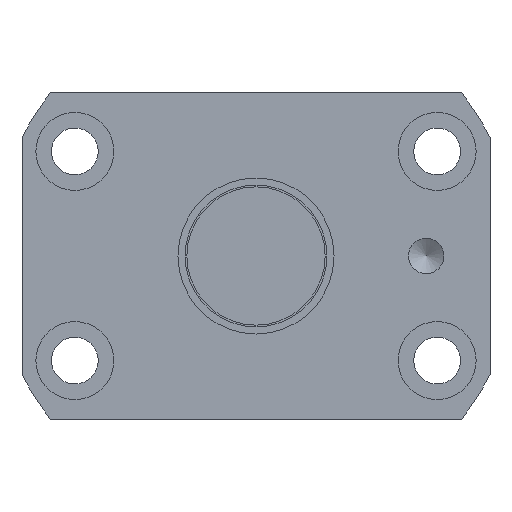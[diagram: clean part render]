
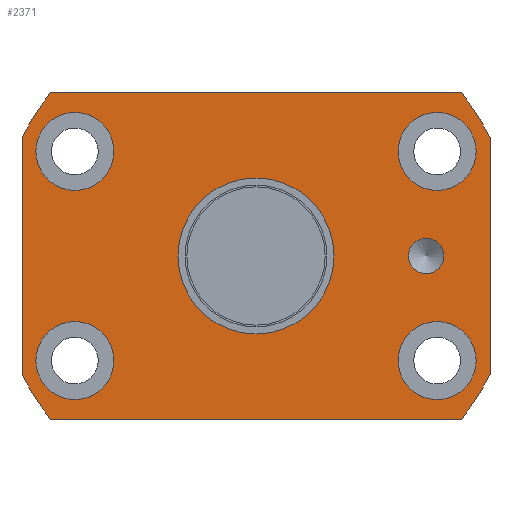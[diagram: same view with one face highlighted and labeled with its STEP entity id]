
A CAD part, left-side view. The second image highlights one B-rep face of the part: STEP entity #2371.
In plain terms, the highlighted planar face has unit normal (-1, 0, 0).
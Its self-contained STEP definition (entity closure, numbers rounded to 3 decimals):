
#3 = AXIS2_PLACEMENT_3D ( 'NONE', #3073, #1514, #3324 ) ;
#31 = CARTESIAN_POINT ( 'NONE',  ( 0., -20.048, 14.75 ) ) ;
#52 = AXIS2_PLACEMENT_3D ( 'NONE', #891, #1347, #2118 ) ;
#75 = CARTESIAN_POINT ( 'NONE',  ( 0., 28.983, -23. ) ) ;
#92 = FACE_BOUND ( 'NONE', #2767, .T. ) ;
#104 = CARTESIAN_POINT ( 'NONE',  ( 0., -33., -16.733 ) ) ;
#128 = ORIENTED_EDGE ( 'NONE', *, *, #2062, .F. ) ;
#167 = CARTESIAN_POINT ( 'NONE',  ( 0., -28.983, 23. ) ) ;
#173 = DIRECTION ( 'NONE',  ( 0., 1., 0. ) ) ;
#179 = EDGE_LOOP ( 'NONE', ( #1289 ) ) ;
#186 = CARTESIAN_POINT ( 'NONE',  ( 0., 31.048, -14.75 ) ) ;
#278 = VERTEX_POINT ( 'NONE', #293 ) ;
#282 = FACE_BOUND ( 'NONE', #3169, .T. ) ;
#293 = CARTESIAN_POINT ( 'NONE',  ( 0., 31.048, 14.75 ) ) ;
#316 = FACE_BOUND ( 'NONE', #940, .T. ) ;
#372 = EDGE_CURVE ( 'NONE', #725, #2482, #2555, .T. ) ;
#401 = DIRECTION ( 'NONE',  ( 0., 1., 0. ) ) ;
#426 = CARTESIAN_POINT ( 'NONE',  ( 0., 11., 0. ) ) ;
#430 = CARTESIAN_POINT ( 'NONE',  ( 0., 0., 0. ) ) ;
#512 = EDGE_CURVE ( 'NONE', #2338, #2338, #2627, .T. ) ;
#531 = CARTESIAN_POINT ( 'NONE',  ( 0., 33., 23. ) ) ;
#535 = DIRECTION ( 'NONE',  ( 0., 1., 0. ) ) ;
#554 = EDGE_LOOP ( 'NONE', ( #2969 ) ) ;
#582 = PLANE ( 'NONE',  #1252 ) ;
#605 = CIRCLE ( 'NONE', #1522, 11. ) ;
#609 = AXIS2_PLACEMENT_3D ( 'NONE', #2513, #1999, #2276 ) ;
#616 = FACE_BOUND ( 'NONE', #179, .T. ) ;
#650 = CARTESIAN_POINT ( 'NONE',  ( 0., -25.548, 14.75 ) ) ;
#661 = ORIENTED_EDGE ( 'NONE', *, *, #1205, .F. ) ;
#673 = ORIENTED_EDGE ( 'NONE', *, *, #959, .F. ) ;
#725 = VERTEX_POINT ( 'NONE', #1808 ) ;
#768 = VECTOR ( 'NONE', #1577, 1000. ) ;
#781 = VERTEX_POINT ( 'NONE', #2094 ) ;
#793 = VERTEX_POINT ( 'NONE', #2000 ) ;
#891 = CARTESIAN_POINT ( 'NONE',  ( 0., 0., 0. ) ) ;
#937 = DIRECTION ( 'NONE',  ( 1., 0., 0. ) ) ;
#940 = EDGE_LOOP ( 'NONE', ( #2032 ) ) ;
#955 = VERTEX_POINT ( 'NONE', #1891 ) ;
#959 = EDGE_CURVE ( 'NONE', #3069, #1021, #1778, .T. ) ;
#969 = ORIENTED_EDGE ( 'NONE', *, *, #2085, .F. ) ;
#979 = VECTOR ( 'NONE', #2230, 1000. ) ;
#1006 = DIRECTION ( 'NONE',  ( 1., 0., 0. ) ) ;
#1021 = VERTEX_POINT ( 'NONE', #2712 ) ;
#1026 = AXIS2_PLACEMENT_3D ( 'NONE', #1977, #2496, #2727 ) ;
#1039 = CARTESIAN_POINT ( 'NONE',  ( 0., 25.548, -14.75 ) ) ;
#1040 = ORIENTED_EDGE ( 'NONE', *, *, #2313, .F. ) ;
#1060 = EDGE_CURVE ( 'NONE', #781, #781, #1188, .T. ) ;
#1132 = AXIS2_PLACEMENT_3D ( 'NONE', #430, #937, #173 ) ;
#1150 = CARTESIAN_POINT ( 'NONE',  ( 0., -33., 23. ) ) ;
#1161 = EDGE_CURVE ( 'NONE', #278, #278, #2481, .T. ) ;
#1174 = AXIS2_PLACEMENT_3D ( 'NONE', #650, #2682, #2431 ) ;
#1188 = CIRCLE ( 'NONE', #1026, 2.5 ) ;
#1205 = EDGE_CURVE ( 'NONE', #2482, #1892, #2970, .T. ) ;
#1208 = EDGE_LOOP ( 'NONE', ( #3216 ) ) ;
#1252 = AXIS2_PLACEMENT_3D ( 'NONE', #2630, #2359, #1386 ) ;
#1282 = ORIENTED_EDGE ( 'NONE', *, *, #2586, .F. ) ;
#1289 = ORIENTED_EDGE ( 'NONE', *, *, #1910, .T. ) ;
#1302 = VECTOR ( 'NONE', #1832, 1000. ) ;
#1336 = FACE_BOUND ( 'NONE', #1208, .T. ) ;
#1347 = DIRECTION ( 'NONE',  ( 1., 0., 0. ) ) ;
#1386 = DIRECTION ( 'NONE',  ( 0., 0., 1. ) ) ;
#1407 = AXIS2_PLACEMENT_3D ( 'NONE', #1039, #2840, #535 ) ;
#1413 = VERTEX_POINT ( 'NONE', #2015 ) ;
#1440 = ORIENTED_EDGE ( 'NONE', *, *, #1600, .F. ) ;
#1514 = DIRECTION ( 'NONE',  ( 1., 0., 0. ) ) ;
#1522 = AXIS2_PLACEMENT_3D ( 'NONE', #1952, #1690, #2977 ) ;
#1571 = AXIS2_PLACEMENT_3D ( 'NONE', #2802, #1006, #2558 ) ;
#1577 = DIRECTION ( 'NONE',  ( 0., 0., 1. ) ) ;
#1600 = EDGE_CURVE ( 'NONE', #1021, #3118, #3124, .T. ) ;
#1620 = FACE_OUTER_BOUND ( 'NONE', #3177, .T. ) ;
#1643 = ORIENTED_EDGE ( 'NONE', *, *, #372, .F. ) ;
#1673 = LINE ( 'NONE', #1150, #979 ) ;
#1690 = DIRECTION ( 'NONE',  ( 1., 0., 0. ) ) ;
#1778 = CIRCLE ( 'NONE', #52, 37. ) ;
#1808 = CARTESIAN_POINT ( 'NONE',  ( 0., 28.983, 23. ) ) ;
#1832 = DIRECTION ( 'NONE',  ( 0., 1., 0. ) ) ;
#1847 = ORIENTED_EDGE ( 'NONE', *, *, #2045, .T. ) ;
#1855 = EDGE_CURVE ( 'NONE', #793, #793, #3029, .T. ) ;
#1865 = FACE_BOUND ( 'NONE', #554, .T. ) ;
#1891 = CARTESIAN_POINT ( 'NONE',  ( 0., 33., 16.733 ) ) ;
#1892 = VERTEX_POINT ( 'NONE', #3083 ) ;
#1910 = EDGE_CURVE ( 'NONE', #2277, #2277, #2859, .T. ) ;
#1952 = CARTESIAN_POINT ( 'NONE',  ( 0., 0., 0. ) ) ;
#1977 = CARTESIAN_POINT ( 'NONE',  ( 0., -24., 0. ) ) ;
#1999 = DIRECTION ( 'NONE',  ( 1., 0., 0. ) ) ;
#2000 = CARTESIAN_POINT ( 'NONE',  ( 0., -20.048, -14.75 ) ) ;
#2015 = CARTESIAN_POINT ( 'NONE',  ( 0., 33., -16.733 ) ) ;
#2032 = ORIENTED_EDGE ( 'NONE', *, *, #1161, .T. ) ;
#2045 = EDGE_CURVE ( 'NONE', #2241, #2241, #605, .T. ) ;
#2062 = EDGE_CURVE ( 'NONE', #3118, #1413, #2594, .T. ) ;
#2085 = EDGE_CURVE ( 'NONE', #1892, #3069, #1673, .T. ) ;
#2094 = CARTESIAN_POINT ( 'NONE',  ( 0., -24., 2.5 ) ) ;
#2118 = DIRECTION ( 'NONE',  ( 0., 1., 0. ) ) ;
#2230 = DIRECTION ( 'NONE',  ( 0., 0., -1. ) ) ;
#2241 = VERTEX_POINT ( 'NONE', #426 ) ;
#2267 = CARTESIAN_POINT ( 'NONE',  ( 0., 0., 0. ) ) ;
#2276 = DIRECTION ( 'NONE',  ( 0., 1., 0. ) ) ;
#2277 = VERTEX_POINT ( 'NONE', #186 ) ;
#2282 = VECTOR ( 'NONE', #2584, 1000. ) ;
#2313 = EDGE_CURVE ( 'NONE', #1413, #955, #2647, .T. ) ;
#2338 = VERTEX_POINT ( 'NONE', #31 ) ;
#2359 = DIRECTION ( 'NONE',  ( -1., 0., 0. ) ) ;
#2371 = ADVANCED_FACE ( 'NONE', ( #1865, #616, #282, #316, #1336, #1620, #92 ), #582, .T. ) ;
#2431 = DIRECTION ( 'NONE',  ( 0., 1., 0. ) ) ;
#2433 = CIRCLE ( 'NONE', #609, 37. ) ;
#2481 = CIRCLE ( 'NONE', #3, 5.5 ) ;
#2482 = VERTEX_POINT ( 'NONE', #167 ) ;
#2496 = DIRECTION ( 'NONE',  ( -1., 0., 0. ) ) ;
#2513 = CARTESIAN_POINT ( 'NONE',  ( 0., 0., 0. ) ) ;
#2555 = LINE ( 'NONE', #531, #2282 ) ;
#2558 = DIRECTION ( 'NONE',  ( 0., 1., 0. ) ) ;
#2584 = DIRECTION ( 'NONE',  ( 0., -1., 0. ) ) ;
#2586 = EDGE_CURVE ( 'NONE', #955, #725, #2433, .T. ) ;
#2594 = CIRCLE ( 'NONE', #1132, 37. ) ;
#2627 = CIRCLE ( 'NONE', #1174, 5.5 ) ;
#2630 = CARTESIAN_POINT ( 'NONE',  ( 0., 17., 0. ) ) ;
#2647 = LINE ( 'NONE', #2854, #768 ) ;
#2682 = DIRECTION ( 'NONE',  ( 1., 0., 0. ) ) ;
#2712 = CARTESIAN_POINT ( 'NONE',  ( 0., -28.983, -23. ) ) ;
#2724 = DIRECTION ( 'NONE',  ( 1., 0., 0. ) ) ;
#2727 = DIRECTION ( 'NONE',  ( 0., 0., 1. ) ) ;
#2745 = AXIS2_PLACEMENT_3D ( 'NONE', #2267, #2724, #401 ) ;
#2767 = EDGE_LOOP ( 'NONE', ( #1847 ) ) ;
#2802 = CARTESIAN_POINT ( 'NONE',  ( 0., -25.548, -14.75 ) ) ;
#2840 = DIRECTION ( 'NONE',  ( 1., 0., 0. ) ) ;
#2848 = CARTESIAN_POINT ( 'NONE',  ( 0., -33., -23. ) ) ;
#2854 = CARTESIAN_POINT ( 'NONE',  ( 0., 33., -23. ) ) ;
#2859 = CIRCLE ( 'NONE', #1407, 5.5 ) ;
#2969 = ORIENTED_EDGE ( 'NONE', *, *, #1060, .F. ) ;
#2970 = CIRCLE ( 'NONE', #2745, 37. ) ;
#2977 = DIRECTION ( 'NONE',  ( 0., 1., 0. ) ) ;
#3029 = CIRCLE ( 'NONE', #1571, 5.5 ) ;
#3069 = VERTEX_POINT ( 'NONE', #104 ) ;
#3073 = CARTESIAN_POINT ( 'NONE',  ( 0., 25.548, 14.75 ) ) ;
#3083 = CARTESIAN_POINT ( 'NONE',  ( 0., -33., 16.733 ) ) ;
#3111 = ORIENTED_EDGE ( 'NONE', *, *, #512, .T. ) ;
#3118 = VERTEX_POINT ( 'NONE', #75 ) ;
#3124 = LINE ( 'NONE', #2848, #1302 ) ;
#3169 = EDGE_LOOP ( 'NONE', ( #3111 ) ) ;
#3177 = EDGE_LOOP ( 'NONE', ( #1440, #673, #969, #661, #1643, #1282, #1040, #128 ) ) ;
#3216 = ORIENTED_EDGE ( 'NONE', *, *, #1855, .T. ) ;
#3324 = DIRECTION ( 'NONE',  ( 0., 1., 0. ) ) ;
